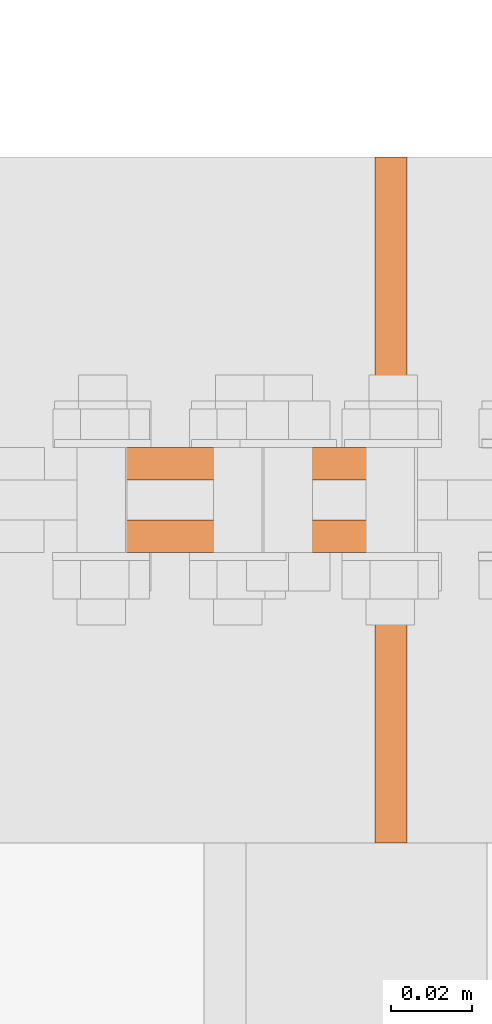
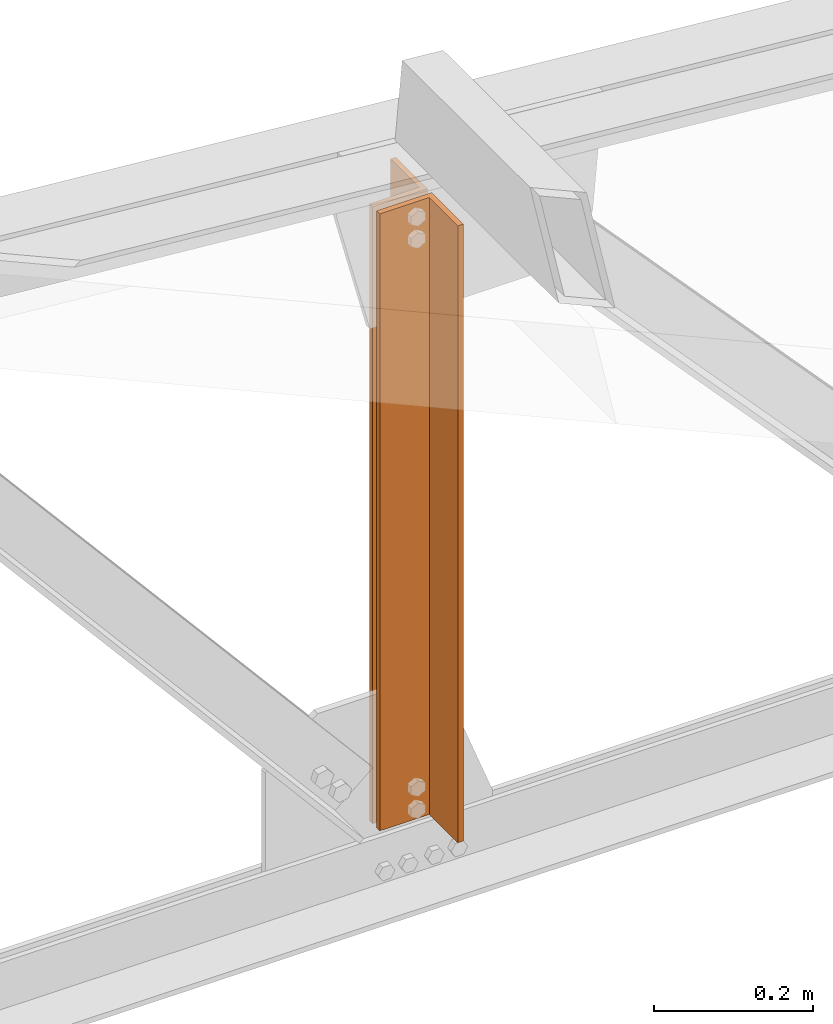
# One storey, part 251 of 251: 2 proxies.
"""IFC4 building model written with IfcOpenShell, lengths in metres."""

from ifc_helpers import new_model, si_unit, frame, origin_with_axes, origin_2d_with_axis, place, context, project, spatial, polyline, i_section, outline, extrude, material, material_profile, profile_set, profile_usage, type_object, element, save


model = new_model("IFC4")

# Units and contexts
model_context = context("Model", 3, precision=1e-05, world=origin_with_axes())
ifc_project = project(units=[si_unit("LENGTHUNIT", "METRE"), si_unit("AREAUNIT", "SQUARE_METRE"), si_unit("VOLUMEUNIT", "CUBIC_METRE"), si_unit("MASSUNIT", "GRAM", prefix="KILO"), si_unit("TIMEUNIT", "SECOND"), si_unit("PLANEANGLEUNIT", "RADIAN"), si_unit("SOLIDANGLEUNIT", "STERADIAN"), si_unit("THERMODYNAMICTEMPERATUREUNIT", "DEGREE_CELSIUS")], contexts=[model_context])

# Site, building, storey
placement_1 = place(None, origin_with_axes())
site = spatial("IfcSite", under=ifc_project, at=placement_1, Name="Italia", CompositionType="ELEMENT")
building = spatial("IfcBuilding", under=site, at=placement_1, Name="Deposito", CompositionType="ELEMENT")
storey = spatial("IfcBuildingStorey", under=building, at=placement_1, Name="Storey 0", CompositionType="ELEMENT", Elevation=0.0)

# Proxies
ifc_material = material(Name="Acciaio", Category="Acciaio")
ifc_material_profile = material_profile(ifc_material, i_section(OverallWidth=0.2, OverallDepth=0.19, WebThickness=0.006, FlangeThickness=0.01, FilletRadius=0.018, at=origin_2d_with_axis()), Name="7 PILASTRO HEA200")
ifc_profile_set = profile_set([ifc_material_profile])
ifc_profile_usage_1 = profile_usage(ifc_profile_set, cardinal=1)
member_type_1 = type_object("IfcMemberType", Name="5 2L80x8", PredefinedType="MEMBER", material=ifc_profile_usage_1)
placement_2 = place(placement_1, origin_with_axes())
proxy_1_placement = place(placement_2, origin_with_axes())
element("IfcBuildingElementProxy", 1, at=proxy_1_placement, inside=storey, type_object=member_type_1, Name="78", context=model_context, shape_type="SweptSolid", body=[
    extrude(outline(polyline([(0.0, 0.0), (-0.0799999, 0.0), (-0.0799999, 0.00799942), (-0.00800133, 0.00799942), (-0.00800133, 0.0799999), (0.0, 0.0799999), (0.0, 0.0)])), frame((19.0263, 19.995, 5.06753), z_axis=(0.0, 0.0, 1.0), x_axis=(0.0, 1.0, 0.0)), (0.0, 0.0, 1.0), 0.949862),
])
ifc_profile_usage_2 = profile_usage(ifc_profile_set, cardinal=1)
member_type_2 = type_object("IfcMemberType", Name="5 2L80x8", PredefinedType="MEMBER", material=ifc_profile_usage_2)
proxy_2_placement = place(placement_2, origin_with_axes())
element("IfcBuildingElementProxy", 2, at=proxy_2_placement, inside=storey, type_object=member_type_2, Name="78", context=model_context, shape_type="SweptSolid", body=[
    extrude(outline(polyline([(0.0, 0.0), (0.00800133, 0.0), (0.00800133, -0.0720005), (0.0799999, -0.0720005), (0.0799999, -0.0799999), (0.0, -0.0799999), (0.0, 0.0)])), frame((18.9463, 20.005, 5.06753), z_axis=(0.0, 0.0, 1.0), x_axis=(0.0, 1.0, 0.0)), (0.0, 0.0, 1.0), 0.949862),
])

save(model, "model.ifc")
